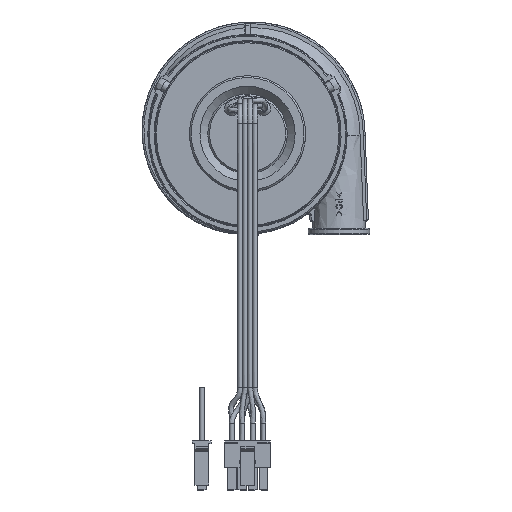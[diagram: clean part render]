
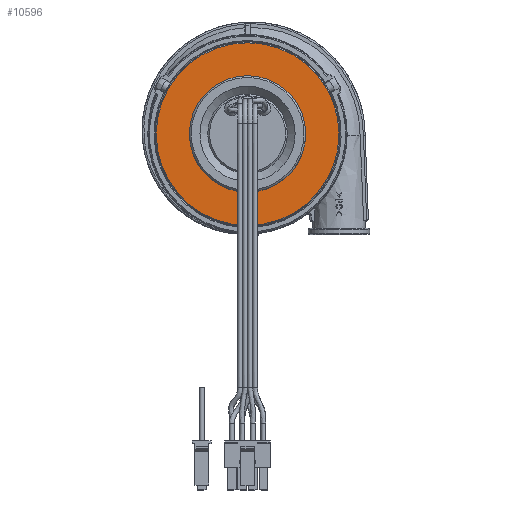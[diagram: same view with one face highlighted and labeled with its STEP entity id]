
A CAD part, top view. The second image highlights one B-rep face of the part: STEP entity #10596.
In plain terms, the highlighted planar face has unit normal (0, 0, 1).
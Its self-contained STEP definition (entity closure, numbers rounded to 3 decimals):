
#9950=PLANE('',#21342);
#10596=ADVANCED_FACE('',(#11675,#11676),#9950,.T.);
#11675=FACE_BOUND('',#12359,.T.);
#11676=FACE_BOUND('',#12360,.T.);
#12359=EDGE_LOOP('',(#14150));
#12360=EDGE_LOOP('',(#14151));
#14150=ORIENTED_EDGE('',*,*,#19170,.T.);
#14151=ORIENTED_EDGE('',*,*,#19174,.F.);
#17627=VERTEX_POINT('',#29474);
#17631=VERTEX_POINT('',#29485);
#19170=EDGE_CURVE('',#17627,#17627,#20802,.T.);
#19174=EDGE_CURVE('',#17631,#17631,#20806,.T.);
#20802=CIRCLE('',#21333,25.94);
#20806=CIRCLE('',#21340,16.5);
#21333=AXIS2_PLACEMENT_3D('',#29473,#23173,#23174);
#21340=AXIS2_PLACEMENT_3D('',#29484,#23187,#23188);
#21342=AXIS2_PLACEMENT_3D('',#29487,#23191,#23192);
#23173=DIRECTION('',(0.,0.,1.));
#23174=DIRECTION('',(-1.,0.,0.));
#23187=DIRECTION('',(0.,0.,1.));
#23188=DIRECTION('',(-1.,0.,0.));
#23191=DIRECTION('',(0.,0.,1.));
#23192=DIRECTION('',(-1.,0.,0.));
#29473=CARTESIAN_POINT('',(0.,0.,
27.35));
#29474=CARTESIAN_POINT('',(-25.94,0.,27.35));
#29484=CARTESIAN_POINT('',(0.,0.,
27.35));
#29485=CARTESIAN_POINT('',(-16.5,0.,27.35));
#29487=CARTESIAN_POINT('',(0.,-16.5,27.35));
